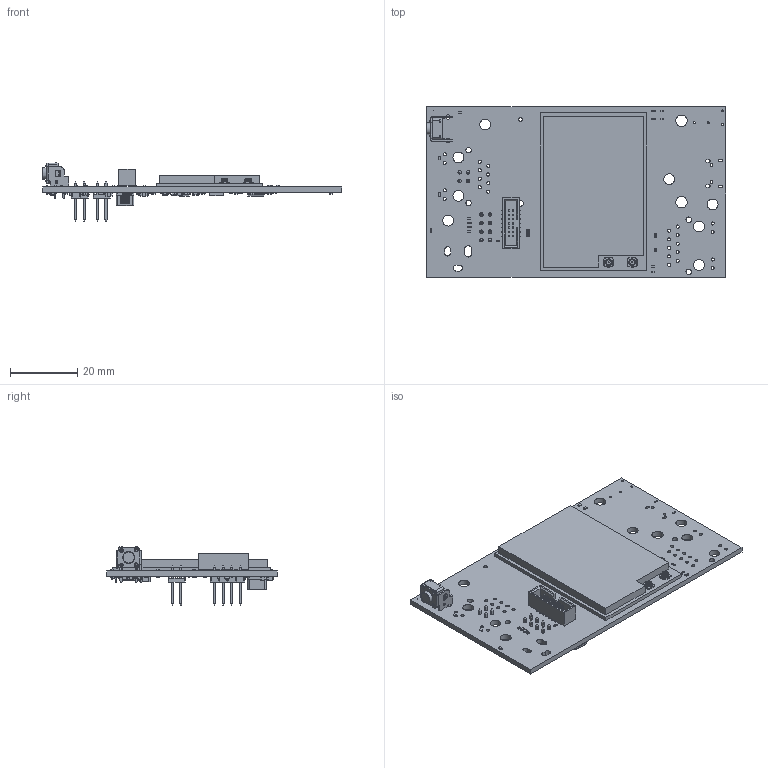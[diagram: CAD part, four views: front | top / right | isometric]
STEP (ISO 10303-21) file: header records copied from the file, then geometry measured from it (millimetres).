
FILE_DESCRIPTION(('Open CASCADE Model'),'2;1');
FILE_NAME('Open CASCADE Shape Model','2016-12-14T14:18:00',('Author'),( 'Open CASCADE'),'Open CASCADE STEP processor 6.8','Open CASCADE 6.8' ,'Unknown');
FILE_SCHEMA(('AUTOMOTIVE_DESIGN { 1 0 10303 214 1 1 1 1 }'));
Length unit declared in the file: millimetre
Products named in the file (162): PCB; Board; R51; User_Library-res0402-1; R50; R49; R48; C43; User_Library-cap_1206-1; R19; R43; R1; C1; User_Library-cap_0402; C2; C3; C4; C5; C6; C7; C8; C19; C20; C21; C23; User_Library-cap_0603-1; C24; C25; C26; C27; C28; C32; User_Library-cap_0805-1; C33; C34; C36; C37; C38; C39; C40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
Assembly tree (273 placements, depth 5):
  PCB
    Board
    R51
      User_Library-res0402-1
    R50
      User_Library-res0402-1
    R49
      User_Library-res0402-1
    R48
      User_Library-res0402-1
    C43
      User_Library-cap_1206-1
    R19
      User_Library-res0402-1
    R43
      User_Library-res0402-1
    R1
      User_Library-res0402-1
    C1
      User_Library-cap_0402
    C2
      User_Library-cap_0402
    C3
      User_Library-cap_0402
    C4
      User_Library-cap_0402
    C5
      User_Library-cap_0402
    C6
      User_Library-cap_0402
    C7
      User_Library-cap_0402
    C8
      User_Library-cap_0402
    C19
      User_Library-cap_0402
    C20
      User_Library-cap_0402
    C21
      User_Library-cap_0402
    C23
      User_Library-cap_0603-1
    C24
      User_Library-cap_0402
    C25
      User_Library-cap_0402
    C26
      User_Library-cap_0402
    C27
      User_Library-cap_0603-1
    C28
      User_Library-cap_0402
    C32
      User_Library-cap_0805-1
    C33
      User_Library-cap_0402
    C34
      User_Library-cap_0402
    C36
      User_Library-cap_0805-1
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Bounding box: 89 x 50.8 x 17.41 mm (x, y, z)
Volume: 11695.5 mm3; surface area: 17712.3 mm2
Topology: 218 solids, 218 shells, 6486 faces, 16060 edges, 9718 vertices
Faces by surface type: plane 4249, cylinder 1710, sphere 268, bspline 170, torus 69, extrusion 14, revolution 4, cone 2
Full cylindrical faces by diameter (mm): 0.125 x2, 0.2 x1, 0.4 x2, 0.6 x4, 0.8 x6, 0.85 x4, 0.925 x26, 1.025 x14, 1.1 x1, 1.325 x2, 1.6 x1, 1.625 x4, 1.75 x1, 3.2 x4, 3.225 x4, 3.425 x2, 3.5 x1, 3.55 x1
Entity records: 220777 total; most frequent: CARTESIAN_POINT 98917, DIRECTION 18920, ORIENTED_EDGE 11144, PCURVE 11144, DEFINITIONAL_REPRESENTATION 11144, VECTOR 11101, LINE 11087, EDGE_CURVE 5572
